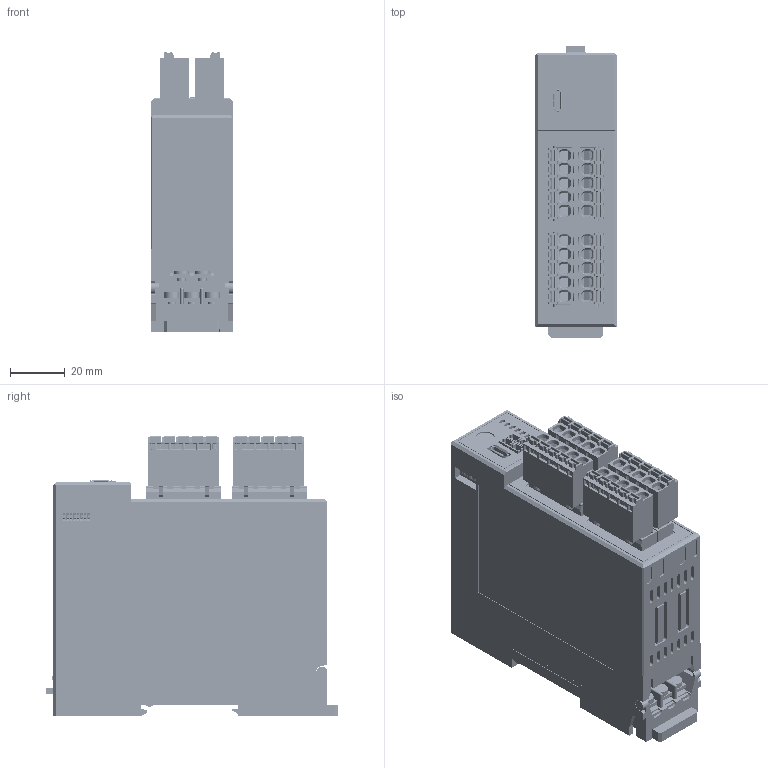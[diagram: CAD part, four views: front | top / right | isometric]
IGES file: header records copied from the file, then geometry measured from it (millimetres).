
Start section: SolidWorks IGES file using analytic representation for surfaces
Bounding box: 29.8 x 106.35 x 102 mm (x, y, z)
Surface area: 56235.5 mm2 (no closed solid volume)
Topology: 0 solids, 0 shells, 6548 faces, 44763 edges, 44687 vertices
Faces by surface type: bspline 4255, revolution 2293
